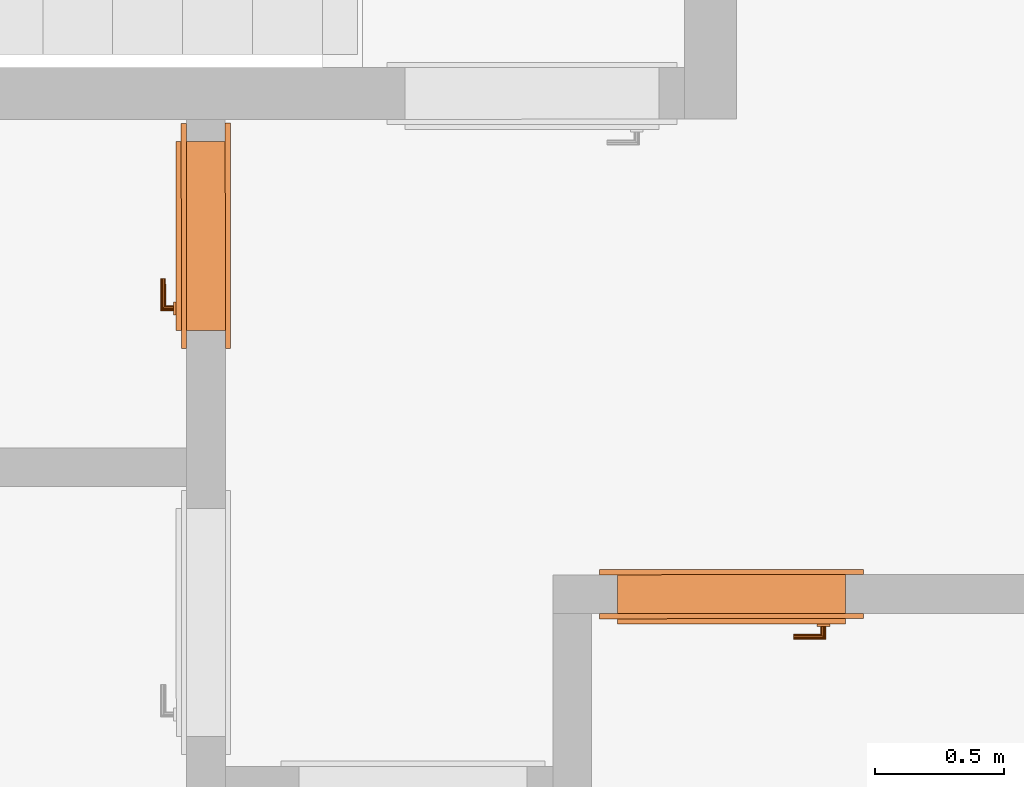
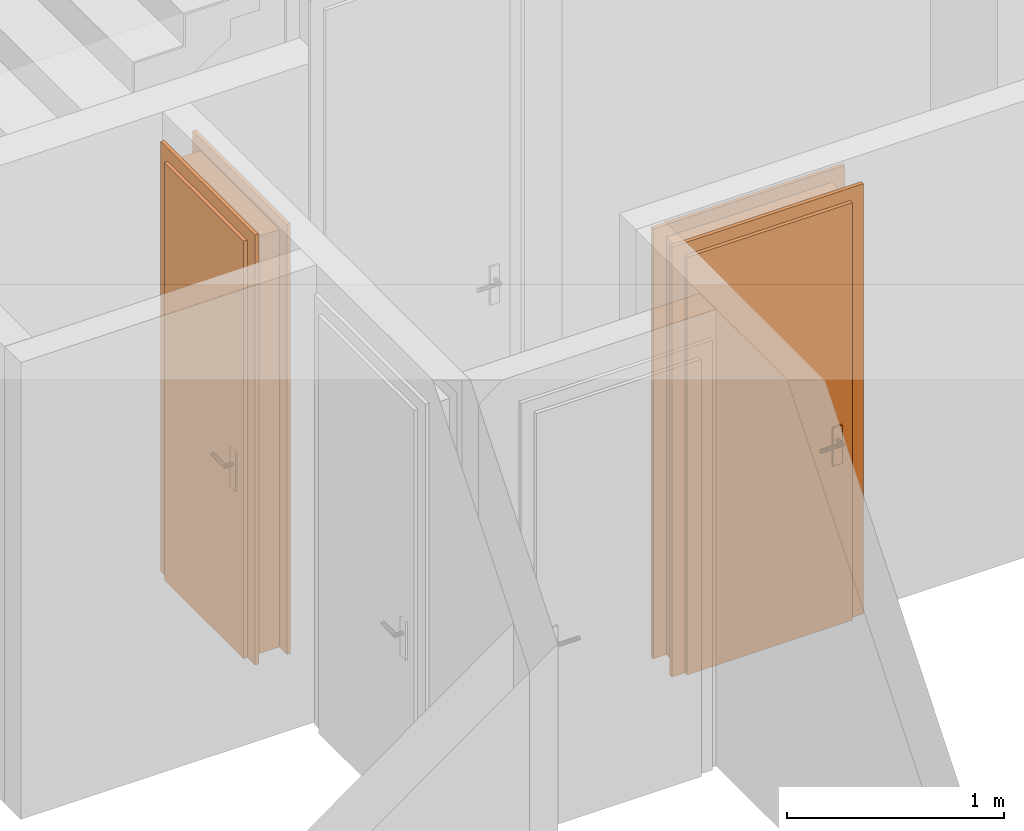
# One storey, part 5 of 8: 2 proxies.
"""IFC2X3 building model written with IfcOpenShell, lengths in metres."""

from ifc_helpers import new_model, entity, si_unit, converted_unit, derived_unit, direction, frame, origin, origin_with_axes, place, context, subcontext, project, spatial, faceted_brep, source, transform, mapped, element, save


model = new_model("IFC2X3")

# Units and contexts
model_context = context("Model", 3, precision=1e-05, world=origin(), true_north=direction((0.772621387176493, -0.634867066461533)))
body_context = subcontext(model_context, "Body", "Model", "MODEL_VIEW")
ifc_project = project(units=[si_unit("LENGTHUNIT", "METRE"), si_unit("AREAUNIT", "SQUARE_METRE"), si_unit("VOLUMEUNIT", "CUBIC_METRE"), si_unit("MASSUNIT", "GRAM", prefix="KILO"), converted_unit("PLANEANGLEUNIT", "DEGREE", entity("IfcPlaneAngleMeasure", 0.0174532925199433), si_unit("PLANEANGLEUNIT", "RADIAN"), dimensions=[0, 0, 0, 0, 0, 0, 0]), derived_unit("THERMALTRANSMITTANCEUNIT", [(si_unit("POWERUNIT", "WATT"), 1), (si_unit("THERMODYNAMICTEMPERATUREUNIT", "KELVIN"), -1), (si_unit("LENGTHUNIT", "METRE"), -2)]), derived_unit("VOLUMETRICFLOWRATEUNIT", [(si_unit("LENGTHUNIT", "METRE"), 3), (converted_unit("TIMEUNIT", "hour", entity("IfcTimeMeasure", 3600.0), si_unit("TIMEUNIT", "SECOND"), dimensions=[0, 0, 1, 0, 0, 0, 0]), -1), (si_unit("LENGTHUNIT", "METRE"), -1)])], contexts=[model_context])

# Site, building, storey
site_placement = place(None, origin())
site = spatial("IfcSite", under=ifc_project, at=site_placement, Name="Modelle auf dem Nullpunkt", CompositionType="ELEMENT")
building_placement = place(site_placement, origin())
building = spatial("IfcBuilding", under=site, at=building_placement, Name="I", CompositionType="ELEMENT")
storey_placement = place(building_placement, origin())
storey = spatial("IfcBuildingStorey", under=building, at=storey_placement, Name="2.OG", CompositionType="ELEMENT", Elevation=0.0)

# Proxies
shared_shape_1 = source(origin_with_axes(), body_context, "Body", "Brep", [
    faceted_brep([(0.0700000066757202, 0.190000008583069, 2.35), (0.0700000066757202, 0.190000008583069, 0.0), (0.0900000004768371, 0.190000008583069, 0.0), (0.0900000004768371, 0.190000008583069, 2.35), (0.0700000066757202, 0.0, 0.0), (0.0700000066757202, 0.0, 2.35), (0.0900000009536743, 0.0, 2.35), (0.0900000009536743, 0.0, 0.0)], [[[0, 1, 2, 3]], [[4, 5, 6, 7]], [[1, 0, 5, 4]], [[2, 1, 4, 7]], [[3, 2, 7, 6]], [[0, 3, 6, 5]]], orient=[[False], [False], [False], [False], [False], [False]]),
    faceted_brep([(0.0700000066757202, 0.190000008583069, 2.42), (0.0, 0.190000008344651, 2.42), (0.0, 0.190000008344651, 0.0), (0.0700000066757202, 0.190000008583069, 0.0), (0.0700000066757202, 0.170000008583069, 0.0), (0.0, 0.170000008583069, 0.0), (0.0, 0.170000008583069, 2.42), (0.0700000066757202, 0.170000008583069, 2.42)], [[[0, 1, 2, 3]], [[4, 5, 6, 7]], [[3, 4, 7, 0]], [[2, 5, 4, 3]], [[1, 6, 5, 2]], [[0, 7, 6, 1]]], orient=[[False], [False], [False], [False], [False], [False]]),
    faceted_brep([(0.0700000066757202, 0.02, 2.42), (0.0, 0.0199999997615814, 2.42), (0.0, 0.0199999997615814, 0.0), (0.0700000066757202, 0.02, 0.0), (0.0700000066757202, 0.0, 0.0), (0.0, 0.0, 0.0), (0.0, 0.0, 2.42), (0.0700000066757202, 0.0, 2.42)], [[[0, 1, 2, 3]], [[4, 5, 6, 7]], [[3, 4, 7, 0]], [[2, 5, 4, 3]], [[1, 6, 5, 2]], [[0, 7, 6, 1]]], orient=[[False], [False], [False], [False], [False], [False]]),
    faceted_brep([(0.930000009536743, 0.190000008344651, 2.35), (0.930000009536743, 0.190000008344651, 0.0), (0.950000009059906, 0.190000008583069, 0.0), (0.950000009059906, 0.190000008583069, 2.35), (0.930000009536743, 0.0, 0.0), (0.930000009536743, 0.0, 2.35), (0.950000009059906, 0.0, 2.35), (0.950000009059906, 0.0, 0.0)], [[[0, 1, 2, 3]], [[4, 5, 6, 7]], [[1, 0, 5, 4]], [[2, 1, 4, 7]], [[3, 2, 7, 6]], [[0, 3, 6, 5]]], orient=[[False], [False], [False], [False], [False], [False]]),
    faceted_brep([(0.950000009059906, 0.190000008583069, 2.42), (0.950000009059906, 0.190000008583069, 0.0), (1.02000000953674, 0.190000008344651, 0.0), (1.02000000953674, 0.190000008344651, 2.42), (0.950000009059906, 0.170000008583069, 0.0), (0.950000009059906, 0.170000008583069, 2.42), (1.02000000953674, 0.170000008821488, 2.42), (1.02000000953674, 0.170000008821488, 0.0)], [[[0, 1, 2, 3]], [[4, 5, 6, 7]], [[1, 0, 5, 4]], [[2, 1, 4, 7]], [[3, 2, 7, 6]], [[0, 3, 6, 5]]], orient=[[False], [False], [False], [False], [False], [False]]),
    faceted_brep([(0.950000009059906, 0.0199999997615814, 2.42), (0.950000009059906, 0.0199999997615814, 0.0), (1.02000000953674, 0.0199999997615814, 0.0), (1.02000000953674, 0.0199999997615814, 2.42), (0.950000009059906, 0.0, 0.0), (0.950000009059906, 0.0, 2.42), (1.02000000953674, 0.0, 2.42), (1.02000000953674, 0.0, 0.0)], [[[0, 1, 2, 3]], [[4, 5, 6, 7]], [[1, 0, 5, 4]], [[2, 1, 4, 7]], [[3, 2, 7, 6]], [[0, 3, 6, 5]]], orient=[[False], [False], [False], [False], [False], [False]]),
    faceted_brep([(0.0900000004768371, 0.190000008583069, 2.35), (0.0900000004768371, 0.190000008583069, 2.33), (0.930000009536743, 0.190000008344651, 2.33), (0.930000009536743, 0.190000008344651, 2.35), (0.0900000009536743, 0.0, 2.33), (0.0900000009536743, 0.0, 2.35), (0.930000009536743, 0.0, 2.35), (0.930000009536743, 0.0, 2.33)], [[[0, 1, 2, 3]], [[4, 5, 6, 7]], [[1, 0, 5, 4]], [[2, 1, 4, 7]], [[3, 2, 7, 6]], [[0, 3, 6, 5]]], orient=[[False], [False], [False], [False], [False], [False]]),
    faceted_brep([(0.0700000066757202, 0.190000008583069, 2.42), (0.0700000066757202, 0.190000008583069, 2.35), (0.950000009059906, 0.190000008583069, 2.35), (0.950000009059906, 0.190000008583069, 2.42), (0.0700000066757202, 0.170000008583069, 2.35), (0.0700000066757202, 0.170000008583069, 2.42), (0.950000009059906, 0.170000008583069, 2.42), (0.950000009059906, 0.170000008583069, 2.35)], [[[0, 1, 2, 3]], [[4, 5, 6, 7]], [[1, 0, 5, 4]], [[2, 1, 4, 7]], [[3, 2, 7, 6]], [[0, 3, 6, 5]]], orient=[[False], [False], [False], [False], [False], [False]]),
    faceted_brep([(0.0700000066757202, 0.02, 2.42), (0.0700000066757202, 0.02, 2.35), (0.950000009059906, 0.0199999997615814, 2.35), (0.950000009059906, 0.0199999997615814, 2.42), (0.0700000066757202, 0.0, 2.35), (0.0700000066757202, 0.0, 2.42), (0.950000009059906, 0.0, 2.42), (0.950000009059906, 0.0, 2.35)], [[[0, 1, 2, 3]], [[4, 5, 6, 7]], [[1, 0, 5, 4]], [[2, 1, 4, 7]], [[3, 2, 7, 6]], [[0, 3, 6, 5]]], orient=[[False], [False], [False], [False], [False], [False]]),
    faceted_brep([(0.0700000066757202, 0.210000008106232, 2.35), (0.0700000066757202, 0.210000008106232, 0.0), (0.950000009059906, 0.210000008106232, 0.0), (0.950000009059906, 0.210000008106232, 2.35), (0.0700000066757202, 0.170000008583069, 0.0), (0.0700000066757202, 0.170000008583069, 2.35), (0.950000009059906, 0.170000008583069, 2.35), (0.950000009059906, 0.170000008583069, 0.0)], [[[0, 1, 2, 3]], [[4, 5, 6, 7]], [[1, 0, 5, 4]], [[2, 1, 4, 7]], [[3, 2, 7, 6]], [[0, 3, 6, 5]]], orient=[[False], [False], [False], [False], [False], [False]]),
    faceted_brep([(0.130000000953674, 0.170000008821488, 1.125), (0.130000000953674, 0.170000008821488, 0.91), (0.180000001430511, 0.170000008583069, 0.91), (0.180000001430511, 0.170000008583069, 1.125), (0.130000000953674, 0.160000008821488, 0.91), (0.130000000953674, 0.160000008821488, 1.125), (0.180000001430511, 0.160000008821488, 1.125), (0.180000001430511, 0.160000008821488, 0.91)], [[[0, 1, 2, 3]], [[4, 5, 6, 7]], [[1, 0, 5, 4]], [[2, 1, 4, 7]], [[3, 2, 7, 6]], [[0, 3, 6, 5]]], orient=[[False], [False], [False], [False], [False], [False]]),
    faceted_brep([(0.155000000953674, 0.160000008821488, 1.06), (0.150000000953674, 0.160000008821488, 1.05866025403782), (0.14633974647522, 0.160000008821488, 1.055), (0.145000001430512, 0.160000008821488, 1.05), (0.14633974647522, 0.160000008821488, 1.045), (0.150000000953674, 0.160000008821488, 1.04133974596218), (0.155000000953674, 0.160000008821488, 1.04), (0.160000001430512, 0.160000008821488, 1.04133974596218), (0.163660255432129, 0.160000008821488, 1.045), (0.165000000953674, 0.160000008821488, 1.05), (0.163660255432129, 0.160000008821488, 1.055), (0.160000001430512, 0.160000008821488, 1.05866025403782), (0.155000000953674, 0.120000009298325, 1.06), (0.150000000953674, 0.115000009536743, 1.05866025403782), (0.146339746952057, 0.111339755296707, 1.055), (0.145000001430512, 0.110000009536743, 1.05), (0.146339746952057, 0.111339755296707, 1.045), (0.150000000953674, 0.115000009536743, 1.04133974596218), (0.155000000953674, 0.120000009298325, 1.04), (0.160000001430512, 0.125000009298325, 1.04133974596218), (0.163660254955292, 0.128660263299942, 1.045), (0.165000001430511, 0.130000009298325, 1.05), (0.163660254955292, 0.128660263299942, 1.055), (0.160000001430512, 0.125000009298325, 1.05866025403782), (0.270000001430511, 0.120000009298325, 1.06), (0.270000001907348, 0.125000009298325, 1.05866025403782), (0.270000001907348, 0.128660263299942, 1.055), (0.270000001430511, 0.130000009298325, 1.05), (0.270000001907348, 0.128660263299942, 1.045), (0.270000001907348, 0.125000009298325, 1.04133974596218), (0.270000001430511, 0.120000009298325, 1.04), (0.270000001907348, 0.115000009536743, 1.04133974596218), (0.270000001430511, 0.111339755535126, 1.045), (0.270000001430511, 0.110000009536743, 1.05), (0.270000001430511, 0.111339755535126, 1.055), (0.270000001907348, 0.115000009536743, 1.05866025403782)], [[[0, 1, 2, 3, 4, 5, 6, 7, 8, 9, 10, 11]], [[0, 12, 13, 1]], [[1, 13, 14, 2]], [[2, 14, 15, 3]], [[3, 15, 16, 4]], [[4, 16, 17, 5]], [[5, 17, 18, 6]], [[6, 18, 19, 7]], [[7, 19, 20, 8]], [[8, 20, 21, 9]], [[9, 21, 22, 10]], [[10, 22, 23, 11]], [[11, 23, 12, 0]], [[24, 25, 26, 27, 28, 29, 30, 31, 32, 33, 34, 35]], [[12, 24, 35, 13]], [[13, 35, 34, 14]], [[14, 34, 33, 15]], [[15, 33, 32, 16]], [[16, 32, 31, 17]], [[17, 31, 30, 18]], [[18, 30, 29, 19]], [[19, 29, 28, 20]], [[20, 28, 27, 21]], [[21, 27, 26, 22]], [[22, 26, 25, 23]], [[23, 25, 24, 12]]], orient=[[False], [False], [False], [False], [False], [False], [False], [False], [False], [False], [False], [False], [False], [False], [False], [False], [False], [False], [False], [False], [False], [False], [False], [False], [False], [False]]),
    faceted_brep([(0.130000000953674, 0.210000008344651, 1.125), (0.180000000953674, 0.210000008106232, 1.125), (0.180000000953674, 0.210000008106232, 0.91), (0.130000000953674, 0.210000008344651, 0.91), (0.130000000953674, 0.220000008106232, 0.91), (0.180000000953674, 0.220000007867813, 0.91), (0.180000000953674, 0.220000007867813, 1.125), (0.130000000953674, 0.220000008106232, 1.125)], [[[0, 1, 2, 3]], [[4, 5, 6, 7]], [[3, 4, 7, 0]], [[2, 5, 4, 3]], [[1, 6, 5, 2]], [[0, 7, 6, 1]]], orient=[[False], [False], [False], [False], [False], [False]]),
    faceted_brep([(0.155000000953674, 0.220000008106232, 1.06), (0.160000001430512, 0.220000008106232, 1.05866025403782), (0.163660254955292, 0.220000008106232, 1.055), (0.165000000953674, 0.220000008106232, 1.05), (0.163660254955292, 0.220000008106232, 1.045), (0.160000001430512, 0.220000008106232, 1.04133974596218), (0.155000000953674, 0.220000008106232, 1.04), (0.150000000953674, 0.220000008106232, 1.04133974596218), (0.14633974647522, 0.220000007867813, 1.045), (0.145000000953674, 0.220000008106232, 1.05), (0.14633974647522, 0.220000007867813, 1.055), (0.150000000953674, 0.220000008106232, 1.05866025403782), (0.150000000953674, 0.265000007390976, 1.05866025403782), (0.155000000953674, 0.260000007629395, 1.06), (0.14633974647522, 0.268660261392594, 1.055), (0.145000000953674, 0.270000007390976, 1.05), (0.14633974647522, 0.268660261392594, 1.045), (0.150000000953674, 0.265000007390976, 1.04133974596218), (0.155000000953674, 0.260000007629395, 1.04), (0.160000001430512, 0.255000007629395, 1.04133974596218), (0.163660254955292, 0.251339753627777, 1.045), (0.165000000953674, 0.250000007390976, 1.05), (0.163660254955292, 0.251339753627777, 1.055), (0.160000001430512, 0.255000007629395, 1.05866025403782), (0.270000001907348, 0.260000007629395, 1.06), (0.270000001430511, 0.265000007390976, 1.05866025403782), (0.270000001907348, 0.268660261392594, 1.055), (0.270000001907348, 0.270000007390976, 1.05), (0.270000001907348, 0.268660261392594, 1.045), (0.270000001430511, 0.265000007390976, 1.04133974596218), (0.270000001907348, 0.260000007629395, 1.04), (0.270000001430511, 0.255000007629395, 1.04133974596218), (0.270000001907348, 0.251339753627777, 1.045), (0.270000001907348, 0.250000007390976, 1.05), (0.270000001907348, 0.251339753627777, 1.055), (0.270000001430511, 0.255000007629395, 1.05866025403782)], [[[0, 1, 2, 3, 4, 5, 6, 7, 8, 9, 10, 11]], [[0, 11, 12, 13]], [[11, 10, 14, 12]], [[10, 9, 15, 14]], [[9, 8, 16, 15]], [[8, 7, 17, 16]], [[7, 6, 18, 17]], [[6, 5, 19, 18]], [[5, 4, 20, 19]], [[4, 3, 21, 20]], [[3, 2, 22, 21]], [[2, 1, 23, 22]], [[1, 0, 13, 23]], [[24, 25, 26, 27, 28, 29, 30, 31, 32, 33, 34, 35]], [[13, 12, 25, 24]], [[12, 14, 26, 25]], [[14, 15, 27, 26]], [[15, 16, 28, 27]], [[16, 17, 29, 28]], [[17, 18, 30, 29]], [[18, 19, 31, 30]], [[19, 20, 32, 31]], [[20, 21, 33, 32]], [[21, 22, 34, 33]], [[22, 23, 35, 34]], [[23, 13, 24, 35]]], orient=[[False], [False], [False], [False], [False], [False], [False], [False], [False], [False], [False], [False], [False], [False], [False], [False], [False], [False], [False], [False], [False], [False], [False], [False], [False], [False]]),
])
proxy_1_placement = place(storey_placement, frame((34.7536193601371, -2.59148210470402, 441.67), z_axis=(0.0, 0.0, 1.0), x_axis=(-0.999999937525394, -0.000353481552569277, 0.0)))
element("IfcBuildingElementProxy", 1, at=proxy_1_placement, inside=storey, Name="1flg Weiß UZ außen", context=body_context, shape_type="MappedRepresentation", body=[
    mapped(shared_shape_1, transform((0.0, 0.0, 0.0), x_axis=(1.0, 0.0, 0.0), y_axis=(0.0, 1.0, 0.0), z_axis=(0.0, 0.0, 1.0), scale=1.0)),
])
shared_shape_2 = source(origin_with_axes(), body_context, "Body", "Brep", [
    faceted_brep([(0.0700000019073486, 0.190000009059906, 2.35), (0.0700000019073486, 0.190000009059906, 0.0), (0.0900000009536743, 0.190000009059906, 0.0), (0.0900000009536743, 0.190000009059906, 2.35), (0.0700000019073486, 0.0, 0.0), (0.0700000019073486, 0.0, 2.35), (0.0900000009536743, 0.0, 2.35), (0.0900000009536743, 0.0, 0.0)], [[[0, 1, 2, 3]], [[4, 5, 6, 7]], [[1, 0, 5, 4]], [[2, 1, 4, 7]], [[3, 2, 7, 6]], [[0, 3, 6, 5]]], orient=[[False], [False], [False], [False], [False], [False]]),
    faceted_brep([(0.0700000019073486, 0.190000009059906, 2.42), (0.0, 0.190000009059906, 2.42), (0.0, 0.190000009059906, 0.0), (0.0700000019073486, 0.190000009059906, 0.0), (0.0700000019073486, 0.170000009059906, 0.0), (0.0, 0.170000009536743, 0.0), (0.0, 0.170000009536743, 2.42), (0.0700000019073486, 0.170000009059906, 2.42)], [[[0, 1, 2, 3]], [[4, 5, 6, 7]], [[3, 4, 7, 0]], [[2, 5, 4, 3]], [[1, 6, 5, 2]], [[0, 7, 6, 1]]], orient=[[False], [False], [False], [False], [False], [False]]),
    faceted_brep([(0.0700000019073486, 0.0199999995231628, 2.42), (0.0, 0.02, 2.42), (0.0, 0.02, 0.0), (0.0700000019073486, 0.0199999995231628, 0.0), (0.0700000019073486, 0.0, 0.0), (0.0, 0.0, 0.0), (0.0, 0.0, 2.42), (0.0700000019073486, 0.0, 2.42)], [[[0, 1, 2, 3]], [[4, 5, 6, 7]], [[3, 4, 7, 0]], [[2, 5, 4, 3]], [[1, 6, 5, 2]], [[0, 7, 6, 1]]], orient=[[False], [False], [False], [False], [False], [False]]),
    faceted_brep([(0.780000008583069, 0.190000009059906, 2.35), (0.780000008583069, 0.190000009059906, 0.0), (0.800000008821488, 0.190000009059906, 0.0), (0.800000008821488, 0.190000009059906, 2.35), (0.780000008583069, 0.0, 0.0), (0.780000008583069, 0.0, 2.35), (0.800000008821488, 0.0, 2.35), (0.800000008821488, 0.0, 0.0)], [[[0, 1, 2, 3]], [[4, 5, 6, 7]], [[1, 0, 5, 4]], [[2, 1, 4, 7]], [[3, 2, 7, 6]], [[0, 3, 6, 5]]], orient=[[False], [False], [False], [False], [False], [False]]),
    faceted_brep([(0.800000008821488, 0.190000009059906, 2.42), (0.800000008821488, 0.190000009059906, 0.0), (0.870000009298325, 0.190000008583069, 0.0), (0.870000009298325, 0.190000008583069, 2.42), (0.800000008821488, 0.170000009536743, 0.0), (0.800000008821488, 0.170000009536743, 2.42), (0.870000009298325, 0.170000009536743, 2.42), (0.870000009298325, 0.170000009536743, 0.0)], [[[0, 1, 2, 3]], [[4, 5, 6, 7]], [[1, 0, 5, 4]], [[2, 1, 4, 7]], [[3, 2, 7, 6]], [[0, 3, 6, 5]]], orient=[[False], [False], [False], [False], [False], [False]]),
    faceted_brep([(0.800000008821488, 0.0199999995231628, 2.42), (0.800000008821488, 0.0199999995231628, 0.0), (0.870000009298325, 0.0199999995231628, 0.0), (0.870000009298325, 0.0199999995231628, 2.42), (0.800000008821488, 0.0, 0.0), (0.800000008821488, 0.0, 2.42), (0.870000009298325, 0.0, 2.42), (0.870000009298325, 0.0, 0.0)], [[[0, 1, 2, 3]], [[4, 5, 6, 7]], [[1, 0, 5, 4]], [[2, 1, 4, 7]], [[3, 2, 7, 6]], [[0, 3, 6, 5]]], orient=[[False], [False], [False], [False], [False], [False]]),
    faceted_brep([(0.0900000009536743, 0.190000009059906, 2.35), (0.0900000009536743, 0.190000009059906, 2.33), (0.780000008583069, 0.190000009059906, 2.33), (0.780000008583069, 0.190000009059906, 2.35), (0.0900000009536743, 0.0, 2.33), (0.0900000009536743, 0.0, 2.35), (0.780000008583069, 0.0, 2.35), (0.780000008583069, 0.0, 2.33)], [[[0, 1, 2, 3]], [[4, 5, 6, 7]], [[1, 0, 5, 4]], [[2, 1, 4, 7]], [[3, 2, 7, 6]], [[0, 3, 6, 5]]], orient=[[False], [False], [False], [False], [False], [False]]),
    faceted_brep([(0.0700000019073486, 0.190000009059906, 2.42), (0.0700000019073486, 0.190000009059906, 2.35), (0.800000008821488, 0.190000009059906, 2.35), (0.800000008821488, 0.190000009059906, 2.42), (0.0700000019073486, 0.170000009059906, 2.35), (0.0700000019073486, 0.170000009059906, 2.42), (0.800000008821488, 0.170000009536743, 2.42), (0.800000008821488, 0.170000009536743, 2.35)], [[[0, 1, 2, 3]], [[4, 5, 6, 7]], [[1, 0, 5, 4]], [[2, 1, 4, 7]], [[3, 2, 7, 6]], [[0, 3, 6, 5]]], orient=[[False], [False], [False], [False], [False], [False]]),
    faceted_brep([(0.0700000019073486, 0.0199999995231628, 2.42), (0.0700000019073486, 0.0199999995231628, 2.35), (0.800000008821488, 0.0199999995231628, 2.35), (0.800000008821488, 0.0199999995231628, 2.42), (0.0700000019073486, 0.0, 2.35), (0.0700000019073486, 0.0, 2.42), (0.800000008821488, 0.0, 2.42), (0.800000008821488, 0.0, 2.35)], [[[0, 1, 2, 3]], [[4, 5, 6, 7]], [[1, 0, 5, 4]], [[2, 1, 4, 7]], [[3, 2, 7, 6]], [[0, 3, 6, 5]]], orient=[[False], [False], [False], [False], [False], [False]]),
    faceted_brep([(0.0700000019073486, 0.210000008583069, 2.35), (0.0700000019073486, 0.210000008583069, 0.0), (0.800000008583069, 0.210000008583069, 0.0), (0.800000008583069, 0.210000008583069, 2.35), (0.0700000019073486, 0.170000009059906, 0.0), (0.0700000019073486, 0.170000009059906, 2.35), (0.800000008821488, 0.170000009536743, 2.35), (0.800000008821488, 0.170000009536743, 0.0)], [[[0, 1, 2, 3]], [[4, 5, 6, 7]], [[1, 0, 5, 4]], [[2, 1, 4, 7]], [[3, 2, 7, 6]], [[0, 3, 6, 5]]], orient=[[False], [False], [False], [False], [False], [False]]),
    faceted_brep([(0.130000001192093, 0.170000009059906, 1.125), (0.130000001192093, 0.170000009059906, 0.91), (0.180000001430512, 0.170000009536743, 0.91), (0.180000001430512, 0.170000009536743, 1.125), (0.130000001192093, 0.160000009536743, 0.91), (0.130000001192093, 0.160000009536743, 1.125), (0.180000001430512, 0.160000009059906, 1.125), (0.180000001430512, 0.160000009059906, 0.91)], [[[0, 1, 2, 3]], [[4, 5, 6, 7]], [[1, 0, 5, 4]], [[2, 1, 4, 7]], [[3, 2, 7, 6]], [[0, 3, 6, 5]]], orient=[[False], [False], [False], [False], [False], [False]]),
    faceted_brep([(0.155000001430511, 0.160000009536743, 1.06), (0.150000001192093, 0.160000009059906, 1.05866025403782), (0.146339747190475, 0.160000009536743, 1.055), (0.145000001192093, 0.160000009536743, 1.05), (0.146339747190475, 0.160000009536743, 1.045), (0.150000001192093, 0.160000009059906, 1.04133974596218), (0.155000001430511, 0.160000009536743, 1.04), (0.160000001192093, 0.160000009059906, 1.04133974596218), (0.16366025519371, 0.160000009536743, 1.045), (0.165000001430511, 0.160000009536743, 1.05), (0.16366025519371, 0.160000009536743, 1.055), (0.160000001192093, 0.160000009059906, 1.05866025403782), (0.155000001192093, 0.120000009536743, 1.06), (0.150000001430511, 0.11500001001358, 1.05866025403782), (0.146339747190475, 0.111339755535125, 1.055), (0.145000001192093, 0.110000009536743, 1.05), (0.146339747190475, 0.111339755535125, 1.045), (0.150000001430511, 0.11500001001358, 1.04133974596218), (0.155000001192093, 0.120000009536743, 1.04), (0.160000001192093, 0.125000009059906, 1.04133974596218), (0.163660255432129, 0.12866026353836, 1.045), (0.165000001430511, 0.130000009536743, 1.05), (0.163660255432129, 0.12866026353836, 1.055), (0.160000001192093, 0.125000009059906, 1.05866025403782), (0.270000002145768, 0.120000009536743, 1.06), (0.270000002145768, 0.125000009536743, 1.05866025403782), (0.270000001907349, 0.128660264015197, 1.055), (0.270000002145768, 0.130000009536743, 1.05), (0.270000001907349, 0.128660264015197, 1.045), (0.270000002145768, 0.125000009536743, 1.04133974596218), (0.270000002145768, 0.120000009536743, 1.04), (0.270000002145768, 0.11500001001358, 1.04133974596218), (0.270000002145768, 0.111339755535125, 1.045), (0.270000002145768, 0.110000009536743, 1.05), (0.270000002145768, 0.111339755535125, 1.055), (0.270000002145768, 0.11500001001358, 1.05866025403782)], [[[0, 1, 2, 3, 4, 5, 6, 7, 8, 9, 10, 11]], [[0, 12, 13, 1]], [[1, 13, 14, 2]], [[2, 14, 15, 3]], [[3, 15, 16, 4]], [[4, 16, 17, 5]], [[5, 17, 18, 6]], [[6, 18, 19, 7]], [[7, 19, 20, 8]], [[8, 20, 21, 9]], [[9, 21, 22, 10]], [[10, 22, 23, 11]], [[11, 23, 12, 0]], [[24, 25, 26, 27, 28, 29, 30, 31, 32, 33, 34, 35]], [[12, 24, 35, 13]], [[13, 35, 34, 14]], [[14, 34, 33, 15]], [[15, 33, 32, 16]], [[16, 32, 31, 17]], [[17, 31, 30, 18]], [[18, 30, 29, 19]], [[19, 29, 28, 20]], [[20, 28, 27, 21]], [[21, 27, 26, 22]], [[22, 26, 25, 23]], [[23, 25, 24, 12]]], orient=[[False], [False], [False], [False], [False], [False], [False], [False], [False], [False], [False], [False], [False], [False], [False], [False], [False], [False], [False], [False], [False], [False], [False], [False], [False], [False]]),
    faceted_brep([(0.130000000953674, 0.210000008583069, 1.125), (0.18000000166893, 0.210000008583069, 1.125), (0.18000000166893, 0.210000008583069, 0.91), (0.130000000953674, 0.210000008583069, 0.91), (0.130000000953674, 0.220000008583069, 0.91), (0.18000000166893, 0.220000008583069, 0.91), (0.18000000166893, 0.220000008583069, 1.125), (0.130000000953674, 0.220000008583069, 1.125)], [[[0, 1, 2, 3]], [[4, 5, 6, 7]], [[3, 4, 7, 0]], [[2, 5, 4, 3]], [[1, 6, 5, 2]], [[0, 7, 6, 1]]], orient=[[False], [False], [False], [False], [False], [False]]),
    faceted_brep([(0.155000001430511, 0.220000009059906, 1.06), (0.160000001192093, 0.220000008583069, 1.05866025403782), (0.163660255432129, 0.220000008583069, 1.055), (0.165000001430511, 0.220000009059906, 1.05), (0.163660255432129, 0.220000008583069, 1.045), (0.160000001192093, 0.220000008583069, 1.04133974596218), (0.155000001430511, 0.220000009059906, 1.04), (0.150000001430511, 0.220000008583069, 1.04133974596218), (0.146339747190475, 0.220000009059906, 1.045), (0.145000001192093, 0.220000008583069, 1.05), (0.146339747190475, 0.220000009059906, 1.055), (0.150000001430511, 0.220000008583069, 1.05866025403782), (0.150000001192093, 0.265000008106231, 1.05866025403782), (0.155000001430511, 0.260000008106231, 1.06), (0.146339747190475, 0.268660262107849, 1.055), (0.145000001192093, 0.270000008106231, 1.05), (0.146339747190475, 0.268660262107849, 1.045), (0.150000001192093, 0.265000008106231, 1.04133974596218), (0.155000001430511, 0.260000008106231, 1.04), (0.160000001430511, 0.255000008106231, 1.04133974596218), (0.163660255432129, 0.251339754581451, 1.045), (0.165000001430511, 0.250000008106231, 1.05), (0.163660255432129, 0.251339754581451, 1.055), (0.160000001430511, 0.255000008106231, 1.05866025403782), (0.270000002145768, 0.260000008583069, 1.06), (0.270000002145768, 0.265000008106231, 1.05866025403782), (0.270000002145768, 0.268660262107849, 1.055), (0.270000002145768, 0.270000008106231, 1.05), (0.270000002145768, 0.268660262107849, 1.045), (0.270000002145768, 0.265000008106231, 1.04133974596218), (0.270000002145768, 0.260000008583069, 1.04), (0.270000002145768, 0.255000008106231, 1.04133974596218), (0.270000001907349, 0.251339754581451, 1.045), (0.270000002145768, 0.250000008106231, 1.05), (0.270000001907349, 0.251339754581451, 1.055), (0.270000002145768, 0.255000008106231, 1.05866025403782)], [[[0, 1, 2, 3, 4, 5, 6, 7, 8, 9, 10, 11]], [[0, 11, 12, 13]], [[11, 10, 14, 12]], [[10, 9, 15, 14]], [[9, 8, 16, 15]], [[8, 7, 17, 16]], [[7, 6, 18, 17]], [[6, 5, 19, 18]], [[5, 4, 20, 19]], [[4, 3, 21, 20]], [[3, 2, 22, 21]], [[2, 1, 23, 22]], [[1, 0, 13, 23]], [[24, 25, 26, 27, 28, 29, 30, 31, 32, 33, 34, 35]], [[13, 12, 25, 24]], [[12, 14, 26, 25]], [[14, 15, 27, 26]], [[15, 16, 28, 27]], [[16, 17, 29, 28]], [[17, 18, 30, 29]], [[18, 19, 31, 30]], [[19, 20, 32, 31]], [[20, 21, 33, 32]], [[21, 22, 34, 33]], [[22, 23, 35, 34]], [[23, 13, 24, 35]]], orient=[[False], [False], [False], [False], [False], [False], [False], [False], [False], [False], [False], [False], [False], [False], [False], [False], [False], [False], [False], [False], [False], [False], [False], [False], [False], [False]]),
])
proxy_2_placement = place(storey_placement, frame((32.3083172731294, -1.73734643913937, 441.67), z_axis=(0.0, 0.0, 1.0), x_axis=(-0.000353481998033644, 0.999999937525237, 0.0)))
element("IfcBuildingElementProxy", 2, at=proxy_2_placement, inside=storey, Name="1flg Weiß UZ außen", context=body_context, shape_type="MappedRepresentation", body=[
    mapped(shared_shape_2, transform((0.0, 0.0, 0.0), x_axis=(1.0, 0.0, 0.0), y_axis=(0.0, 1.0, 0.0), z_axis=(0.0, 0.0, 1.0), scale=1.0)),
])

save(model, "model.ifc")
